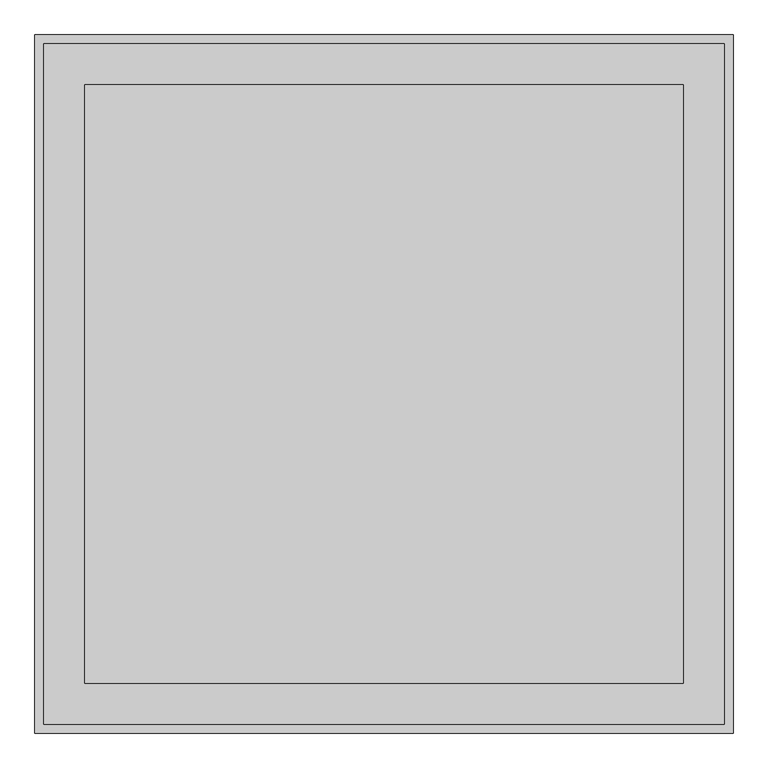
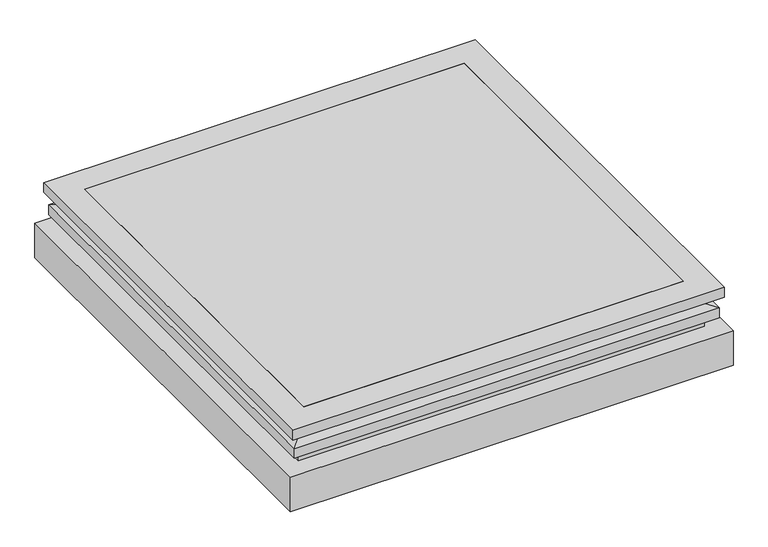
"""IFC4 building model written with IfcOpenShell, lengths in millimetres: proxy geometry, TRP_CP_ARC_FI_OR : AL_VE_110_110."""

from ifc_helpers import new_model, si_unit, frame, origin, place, context, project, spatial, polyline, outline, extrude, faceted_brep, source, transform, mapped, element, save


def generic_models_cb4ec72e(model_context):
    return source(origin(), model_context, "Body", "SolidModel", [
        extrude(outline(polyline([(514.5, -514.5), (-514.5, -514.5), (-514.5, 514.5), (514.5, 514.5), (514.5, -514.5)])), frame((0.0, 0.0, 4352.4), z_axis=(0.0, 0.0, 1.0), x_axis=(1.0, 0.0, 0.0)), (0.0, 0.0, 1.0), 27.6345711),
        extrude(outline(polyline([(585.0, -585.0), (-585.0, -585.0), (-585.0, 585.0), (585.0, 585.0), (585.0, -585.0)]), holes=[polyline([(514.5, 514.5), (-514.5, 514.5), (-514.5, -514.5), (514.5, -514.5), (514.5, 514.5)])]), frame((0.0, 0.0, 4352.4), z_axis=(0.0, 0.0, 1.0), x_axis=(1.0, 0.0, 0.0)), (0.0, 0.0, 1.0), 27.6345711),
        extrude(outline(polyline([(550.0, -550.0), (-550.0, -550.0), (-550.0, 550.0), (550.0, 550.0), (550.0, -550.0)]), holes=[polyline([(514.5, 514.5), (-514.5, 514.5), (-514.5, -514.5), (514.5, -514.5), (514.5, 514.5)])]), frame((0.0, 0.0, 4161.1996506), z_axis=(0.0, 0.0, 1.0), x_axis=(1.0, 0.0, 0.0)), (0.0, 0.0, 1.0), 119.7298732),
        extrude(outline(polyline([(600.0, 600.0), (600.0, -600.0), (-600.0, -600.0), (-600.0, 600.0), (600.0, 600.0)]), holes=[polyline([(550.0, 550.0), (-550.0, 550.0), (-550.0, -550.0), (550.0, -550.0), (550.0, 550.0)])]), frame((0.0, 0.0, 4161.1996506), z_axis=(0.0, 0.0, 1.0), x_axis=(1.0, 0.0, 0.0)), (0.0, 0.0, 1.0), 98.8003494),
        faceted_brep([(550.0, 550.0, 4326.1339362), (550.0, 550.0, 4352.4), (550.0, -550.0, 4352.4), (550.0, -550.0, 4326.1339362), (576.0955794, 576.0955794, 4290.9295239), (576.0955794, 576.0955794, 4319.4705524), (576.0955794, -576.0955794, 4319.4705524), (576.0955794, -576.0955794, 4290.9295239), (550.0, 550.0, 4280.9295239), (550.0, 550.0, 4290.9295239), (550.0, -550.0, 4290.9295239), (550.0, -550.0, 4280.9295239), (514.5, 514.5, 4352.4), (514.5, 514.5, 4280.9295239), (514.5, -514.5, 4280.9295239), (514.5, -514.5, 4352.4), (-550.0, -550.0, 4352.4), (-550.0, -550.0, 4326.1339362), (-576.0955794, -576.0955794, 4319.4705524), (-576.0955794, -576.0955794, 4290.9295239), (-550.0, -550.0, 4290.9295239), (-550.0, -550.0, 4280.9295239), (-514.5, -514.5, 4280.9295239), (-514.5, -514.5, 4352.4), (-550.0, 550.0, 4352.4), (-550.0, 550.0, 4326.1339362), (-576.0955794, 576.0955794, 4319.4705524), (-576.0955794, 576.0955794, 4290.9295239), (-550.0, 550.0, 4290.9295239), (-550.0, 550.0, 4280.9295239), (-514.5, 514.5, 4280.9295239), (-514.5, 514.5, 4352.4)], [[[0, 1, 2, 3]], [[4, 5, 6, 7]], [[8, 9, 10, 11]], [[12, 13, 14, 15]], [[3, 2, 16, 17]], [[7, 6, 18, 19]], [[11, 10, 20, 21]], [[15, 14, 22, 23]], [[17, 16, 24, 25]], [[19, 18, 26, 27]], [[21, 20, 28, 29]], [[23, 22, 30, 31]], [[25, 24, 1, 0]], [[27, 26, 5, 4]], [[7, 19, 27, 4], [9, 28, 20, 10]], [[29, 28, 9, 8]], [[31, 30, 13, 12]], [[1, 24, 16, 2], [15, 23, 31, 12]], [[11, 21, 29, 8], [13, 30, 22, 14]], [[5, 0, 3, 6]], [[6, 3, 17, 18]], [[18, 17, 25, 26]], [[26, 25, 0, 5]]]),
    ])


if __name__ == "__main__":
    model = new_model("IFC4")
    model_context = context("Model", 3, world=origin())
    ifc_project = project(units=[si_unit("LENGTHUNIT", "METRE", prefix="MILLI")], contexts=[model_context])
    site = spatial("IfcSite", under=ifc_project)
    building = spatial("IfcBuilding", under=site)
    placement = place(None, origin())
    generic_models_shape = generic_models_cb4ec72e(model_context)
    element("IfcBuildingElementProxy", 1, Name="TRP_CP_ARC_FI_OR : AL_VE_110_110", ObjectType="TRP_CP_ARC_FI_OR : AL_VE_110_110", at=placement, inside=building, context=model_context, shape_type="MappedRepresentation", body=[
        mapped(generic_models_shape, transform((0.0, 0.0, 0.0), x_axis=(1.0, 0.0, 0.0), y_axis=(0.0, 1.0, 0.0), z_axis=(0.0, 0.0, 1.0))),
    ])
    save(model, "model.ifc")
